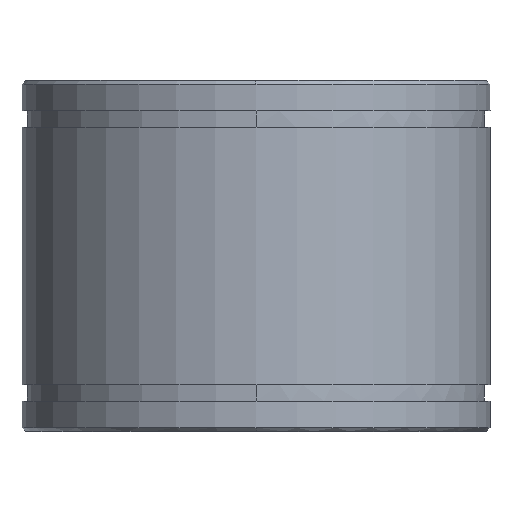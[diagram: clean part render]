
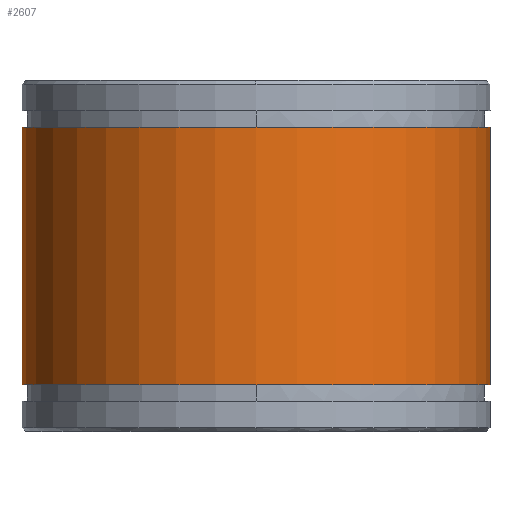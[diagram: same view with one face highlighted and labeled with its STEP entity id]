
A CAD part, front view. The second image highlights one B-rep face of the part: STEP entity #2607.
In plain terms, the highlighted cylindrical face has radius 30 mm (diameter 60 mm), a partial arc.
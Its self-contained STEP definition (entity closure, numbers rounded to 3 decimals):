
#1662=CARTESIAN_POINT('Axis2P3D Location',(0.,0.,39.)) ;
#1666=CARTESIAN_POINT('Vertex',(-30.,0.,39.)) ;
#1668=CARTESIAN_POINT('Vertex',(30.,0.,39.)) ;
#2577=CARTESIAN_POINT('Axis2P3D Location',(0.,0.,-2.25)) ;
#2582=CARTESIAN_POINT('Line Origine',(30.,0.,-2.25)) ;
#2586=CARTESIAN_POINT('Vertex',(30.,0.,6.)) ;
#2589=CARTESIAN_POINT('Line Origine',(-30.,0.,-2.25)) ;
#2593=CARTESIAN_POINT('Vertex',(-30.,0.,6.)) ;
#2596=CARTESIAN_POINT('Axis2P3D Location',(0.,0.,6.)) ;
#1663=DIRECTION('Axis2P3D Direction',(0.,-0.,1.)) ;
#2578=DIRECTION('Axis2P3D Direction',(0.,0.,1.)) ;
#2579=DIRECTION('Axis2P3D XDirection',(-1.,0.,0.)) ;
#2583=DIRECTION('Vector Direction',(0.,0.,1.)) ;
#2590=DIRECTION('Vector Direction',(0.,0.,1.)) ;
#2597=DIRECTION('Axis2P3D Direction',(0.,0.,1.)) ;
#1664=AXIS2_PLACEMENT_3D('Circle Axis2P3D',#1662,#1663,$) ;
#2580=AXIS2_PLACEMENT_3D('Cylinder Axis2P3D',#2577,#2578,#2579) ;
#2598=AXIS2_PLACEMENT_3D('Circle Axis2P3D',#2596,#2597,$) ;
#2602=ORIENTED_EDGE('',*,*,#2588,.F.) ;
#2603=ORIENTED_EDGE('',*,*,#1670,.F.) ;
#2604=ORIENTED_EDGE('',*,*,#2595,.T.) ;
#2605=ORIENTED_EDGE('',*,*,#2600,.F.) ;
#2584=VECTOR('Line Direction',#2583,1.) ;
#2591=VECTOR('Line Direction',#2590,1.) ;
#2607=ADVANCED_FACE('MANIFOLD_SOLID_BREP #2444',(#2606),#2581,.T.) ;
#1665=CIRCLE('generated circle',#1664,30.) ;
#2599=CIRCLE('generated circle',#2598,30.) ;
#2581=CYLINDRICAL_SURFACE('generated cylinder',#2580,30.) ;
#1670=EDGE_CURVE('',#1667,#1669,#1665,.T.) ;
#2588=EDGE_CURVE('',#1669,#2587,#2585,.F.) ;
#2595=EDGE_CURVE('',#1667,#2594,#2592,.F.) ;
#2600=EDGE_CURVE('',#2587,#2594,#2599,.F.) ;
#2601=EDGE_LOOP('',(#2602,#2603,#2604,#2605)) ;
#2606=FACE_OUTER_BOUND('',#2601,.T.) ;
#2585=LINE('Line',#2582,#2584) ;
#2592=LINE('Line',#2589,#2591) ;
#1667=VERTEX_POINT('',#1666) ;
#1669=VERTEX_POINT('',#1668) ;
#2587=VERTEX_POINT('',#2586) ;
#2594=VERTEX_POINT('',#2593) ;
